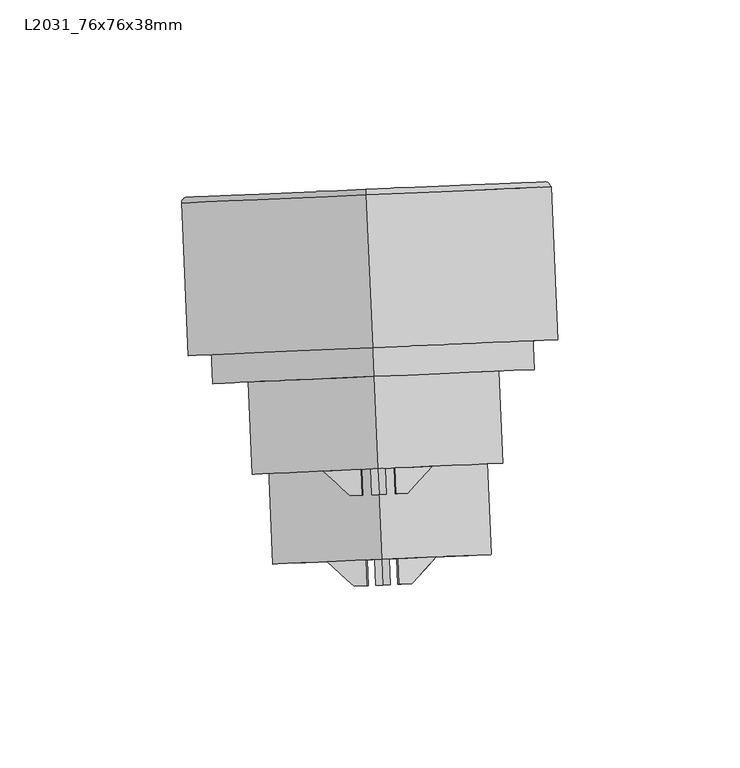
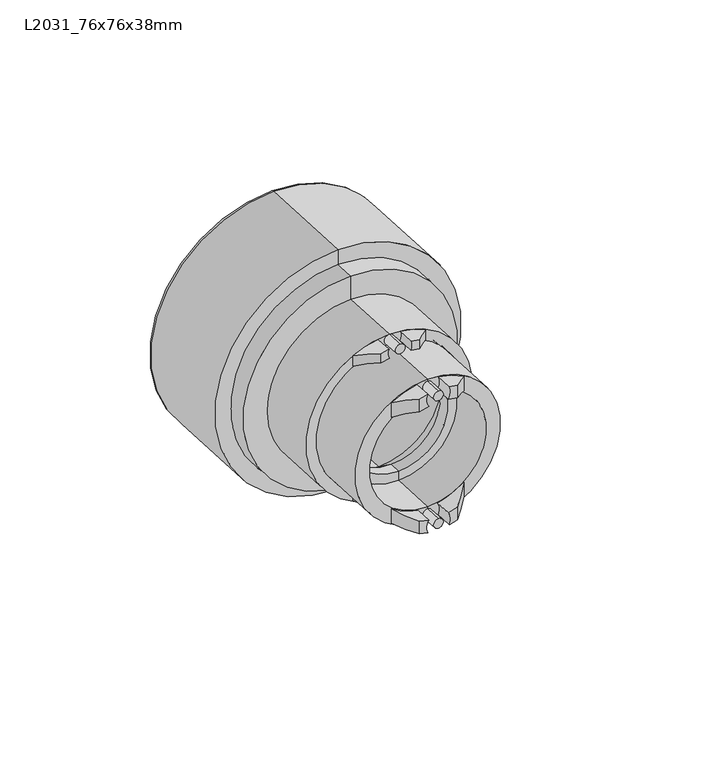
"""IFC4 building model written with IfcOpenShell, lengths in millimetres: pipe fitting geometry, Durapipe_PipeFitting_VulcatheneEnfusion_ReducingSweepTee_L20 : L2031_76x76x38mm."""

from ifc_helpers import new_model, si_unit, point, frame, frame_2d, origin, place, context, project, spatial, polyline, circle_curve, ellipse_curve, trimmed, segment, composite_curve, outline, extrude, source, transform, mapped, element, save
from ifc_brep_helpers import plane_surface, cylinder_surface, revolved_surface, advanced_brep


def l2031_76x76x38mm_6f6c5ed2(model_context):
    return source(origin(), model_context, "Body", "SolidModel", [
        advanced_brep(
        [(3.7135301, -177.8604329, 24.3153211), (3.3046977, -177.8782829, 29.5153211), (-0.1745983, -178.0301923, 28.7746225), (-0.1745983, -178.0301923, 23.3362143), (-7.5375764, -171.2449028, 25.8074117), (2.995, -170.7850406, 29.5153211), (3.4038325, -170.7671906, 24.3153211), (-7.5375764, -171.2449028, 19.5607387)],
        [
            (0, 1, circle_curve(frame((7.7578446, -177.6838544, 27.25), z_axis=(-0.043619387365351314, 0.9990482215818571, 0.0), x_axis=(0.0, 0.0, -1.0)), 5.0)),
            (1, 2, circle_curve(frame((7.7578446, -177.6838544, 0.0), z_axis=(0.043619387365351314, -0.9990482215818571, 0.0), x_axis=(0.0, 0.0, -1.0)), 29.85)),
            (2, 3),
            (3, 0, circle_curve(frame((7.7578446, -177.6838544, 0.0), z_axis=(-0.043619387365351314, 0.9990482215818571, 0.0), x_axis=(0.0, 0.0, -1.0)), 24.65)),
            (4, 5, circle_curve(frame((7.448147, -170.590612, 0.0), z_axis=(-0.043619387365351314, 0.9990482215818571, 0.0), x_axis=(0.0, 0.0, -1.0)), 29.85)),
            (5, 6, circle_curve(frame((7.448147, -170.590612, 27.25), z_axis=(0.043619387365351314, -0.9990482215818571, 0.0), x_axis=(0.0, 0.0, -1.0)), 5.0)),
            (6, 7, circle_curve(frame((7.448147, -170.590612, 0.0), z_axis=(0.043619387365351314, -0.9990482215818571, 0.0), x_axis=(0.0, 0.0, -1.0)), 24.65)),
            (7, 4),
            (6, 0),
            (3, 7, ellipse_curve(frame((8.1061448, -185.6612402, 0.0), z_axis=(-0.6776702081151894, -0.735365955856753, 0.0), x_axis=(-0.735365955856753, 0.6776702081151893, 0.0)), 34.9592584, 24.65)),
            (4, 2, ellipse_curve(frame((8.1061448, -185.6612402, 0.0), z_axis=(0.6776702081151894, 0.735365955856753, 0.0), x_axis=(0.735365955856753, -0.6776702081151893, 0.0)), 42.3340309, 29.85)),
            (1, 5),
        ],
        [
            plane_surface(frame((-7.2278787, -178.3381452, 25.8074117), z_axis=(0.043619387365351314, -0.9990482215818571, 0.0), x_axis=(0.0, 0.0, -1.0))),
            plane_surface(frame((-7.5375764, -171.2449028, 25.8074117), z_axis=(-0.043619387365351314, 0.9990482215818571, 0.0), x_axis=(0.0, 0.0, 1.0))),
            revolved_surface(polyline([(7.024835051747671, -160.89517438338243, -24.65), (9.187454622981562, -210.42730601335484, -24.65)]), (7.448147, -170.590612, 0.0), (-0.043619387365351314, 0.9990482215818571, 0.0)),
            cylinder_surface(frame((7.448147, -170.590612, 0.0), z_axis=(0.043619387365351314, -0.9990482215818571, 0.0), x_axis=(0.0, 0.0, -1.0)), 29.85),
            revolved_surface(polyline([(7.75784465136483, -177.68385439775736, 22.25), (7.448147, -170.590612, 22.25)]), (7.448147, -170.590612, 27.25), (0.043619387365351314, -0.9990482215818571, 0.0)),
            plane_surface(frame((-7.5375764, -171.2449028, -29.85), z_axis=(-0.6776702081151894, -0.735365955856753, 0.0), x_axis=(0.0, 0.0, 1.0))),
        ],
        [
            (0, [[1, 2, 3, 4]]),
            (1, [[5, 6, 7, 8]]),
            (2, [[-7, 9, -4, 10]]),
            (3, [[-5, 11, -2, 12]]),
            (4, [[-1, -9, -6, -12]]),
            (5, [[-3, -11, -8, -10]]),
        ],
    ),
        advanced_brep(
        [(12.2109916, -177.4894258, 29.5153211), (11.8021591, -177.5072758, 24.3153211), (15.6902875, -177.3375164, 23.3362143), (15.6902875, -177.3375164, 28.7746225), (11.9012939, -170.3961834, 29.5153211), (22.4338703, -169.9363212, 25.8074117), (22.4338703, -169.9363212, 19.5607387), (11.4924615, -170.4140334, 24.3153211)],
        [
            (0, 1, circle_curve(frame((7.7578446, -177.6838544, 27.25), z_axis=(-0.043619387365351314, 0.9990482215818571, 0.0), x_axis=(0.0, 0.0, -1.0)), 5.0)),
            (1, 2, circle_curve(frame((7.7578446, -177.6838544, 0.0), z_axis=(-0.043619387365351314, 0.9990482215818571, 0.0), x_axis=(0.0, 0.0, -1.0)), 24.65)),
            (2, 3),
            (3, 0, circle_curve(frame((7.7578446, -177.6838544, 0.0), z_axis=(0.043619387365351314, -0.9990482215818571, 0.0), x_axis=(0.0, 0.0, -1.0)), 29.85)),
            (4, 5, circle_curve(frame((7.448147, -170.590612, 0.0), z_axis=(-0.043619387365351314, 0.9990482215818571, 0.0), x_axis=(0.0, 0.0, -1.0)), 29.85)),
            (5, 6),
            (6, 7, circle_curve(frame((7.448147, -170.590612, 0.0), z_axis=(0.043619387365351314, -0.9990482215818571, 0.0), x_axis=(0.0, 0.0, -1.0)), 24.65)),
            (7, 4, circle_curve(frame((7.448147, -170.590612, 27.25), z_axis=(0.043619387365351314, -0.9990482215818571, 0.0), x_axis=(0.0, 0.0, -1.0)), 5.0)),
            (6, 2, ellipse_curve(frame((8.1061448, -185.6612402, 0.0), z_axis=(0.7391828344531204, -0.6735048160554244, 0.0), x_axis=(0.6735048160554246, 0.73918283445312, 0.0)), 34.9592584, 24.65)),
            (1, 7),
            (4, 0),
            (3, 5, ellipse_curve(frame((8.1061448, -185.6612402, 0.0), z_axis=(-0.7391828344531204, 0.6735048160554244, 0.0), x_axis=(-0.6735048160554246, -0.73918283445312, 0.0)), 42.3340309, 29.85)),
        ],
        [
            plane_surface(frame((-7.2278787, -178.3381452, 25.8074117), z_axis=(0.043619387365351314, -0.9990482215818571, 0.0), x_axis=(0.0, 0.0, -1.0))),
            plane_surface(frame((-7.5375764, -171.2449028, 25.8074117), z_axis=(-0.043619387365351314, 0.9990482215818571, 0.0), x_axis=(0.0, 0.0, 1.0))),
            revolved_surface(polyline([(7.024835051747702, -160.89517438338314, -24.65), (9.187454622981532, -210.42730601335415, -24.65)]), (7.448147, -170.590612, 0.0), (-0.043619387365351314, 0.9990482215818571, 0.0)),
            cylinder_surface(frame((7.448147, -170.590612, 0.0), z_axis=(0.043619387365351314, -0.9990482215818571, 0.0), x_axis=(0.0, 0.0, -1.0)), 29.85),
            revolved_surface(polyline([(7.75784465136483, -177.68385439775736, 22.25), (7.448146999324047, -170.59061198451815, 22.25)]), (7.448147, -170.590612, 27.25), (0.043619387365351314, -0.9990482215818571, 0.0)),
            plane_surface(frame((15.6902875, -177.3375164, -29.85), z_axis=(0.7391828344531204, -0.6735048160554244, 0.0), x_axis=(0.0, 0.0, 1.0))),
        ],
        [
            (0, [[1, 2, 3, 4]]),
            (1, [[5, 6, 7, 8]]),
            (2, [[-7, 9, -2, 10]]),
            (3, [[-5, 11, -4, 12]]),
            (4, [[-1, -11, -8, -10]]),
            (5, [[-3, -9, -6, -12]]),
        ],
    ),
        advanced_brep(
        [(3.3046977, -177.8782829, -29.5153211), (3.7135301, -177.8604329, -24.3153211), (-0.1745983, -178.0301923, -23.3362143), (-0.1745983, -178.0301923, -28.7746225), (2.995, -170.7850406, -29.5153211), (-7.5375764, -171.2449028, -25.8074117), (-7.5375764, -171.2449028, -19.5607387), (3.4038325, -170.7671906, -24.3153211)],
        [
            (0, 1, circle_curve(frame((7.7578446, -177.6838544, -27.25), z_axis=(-0.043619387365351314, 0.9990482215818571, 0.0), x_axis=(0.0, 0.0, -1.0)), 5.0)),
            (1, 2, circle_curve(frame((7.7578446, -177.6838544, 0.0), z_axis=(-0.043619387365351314, 0.9990482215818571, 0.0), x_axis=(0.0, 0.0, -1.0)), 24.65)),
            (2, 3),
            (3, 0, circle_curve(frame((7.7578446, -177.6838544, 0.0), z_axis=(0.043619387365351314, -0.9990482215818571, 0.0), x_axis=(0.0, 0.0, -1.0)), 29.85)),
            (4, 5, circle_curve(frame((7.448147, -170.590612, 0.0), z_axis=(-0.043619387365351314, 0.9990482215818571, 0.0), x_axis=(0.0, 0.0, -1.0)), 29.85)),
            (5, 6),
            (6, 7, circle_curve(frame((7.448147, -170.590612, 0.0), z_axis=(0.043619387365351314, -0.9990482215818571, 0.0), x_axis=(0.0, 0.0, -1.0)), 24.65)),
            (7, 4, circle_curve(frame((7.448147, -170.590612, -27.25), z_axis=(0.043619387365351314, -0.9990482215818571, 0.0), x_axis=(0.0, 0.0, -1.0)), 5.0)),
            (6, 2, ellipse_curve(frame((8.1061448, -185.6612402, 0.0), z_axis=(-0.6776702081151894, -0.735365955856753, 0.0), x_axis=(-0.735365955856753, 0.6776702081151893, 0.0)), 34.9592584, 24.65)),
            (1, 7),
            (4, 0),
            (3, 5, ellipse_curve(frame((8.1061448, -185.6612402, 0.0), z_axis=(0.6776702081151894, 0.735365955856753, 0.0), x_axis=(0.735365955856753, -0.6776702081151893, 0.0)), 42.3340309, 29.85)),
        ],
        [
            plane_surface(frame((-7.2278787, -178.3381452, 25.8074117), z_axis=(0.043619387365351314, -0.9990482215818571, 0.0), x_axis=(0.0, 0.0, -1.0))),
            plane_surface(frame((-7.5375764, -171.2449028, 25.8074117), z_axis=(-0.043619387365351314, 0.9990482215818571, 0.0), x_axis=(0.0, 0.0, 1.0))),
            revolved_surface(polyline([(7.024835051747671, -160.89517438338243, -24.65), (9.187454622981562, -210.42730601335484, -24.65)]), (7.448147, -170.590612, 0.0), (-0.043619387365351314, 0.9990482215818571, 0.0)),
            cylinder_surface(frame((7.448147, -170.590612, 0.0), z_axis=(0.043619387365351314, -0.9990482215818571, 0.0), x_axis=(0.0, 0.0, -1.0)), 29.85),
            revolved_surface(polyline([(7.75784465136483, -177.68385439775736, -32.25), (7.448147, -170.590612, -32.25)]), (7.448147, -170.590612, -27.25), (0.043619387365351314, -0.9990482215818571, 0.0)),
            plane_surface(frame((-7.5375764, -171.2449028, -29.85), z_axis=(-0.6776702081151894, -0.735365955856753, 0.0), x_axis=(0.0, 0.0, 1.0))),
        ],
        [
            (0, [[1, 2, 3, 4]]),
            (1, [[5, 6, 7, 8]]),
            (2, [[-7, 9, -2, 10]]),
            (3, [[-5, 11, -4, 12]]),
            (4, [[-1, -11, -8, -10]]),
            (5, [[-3, -9, -6, -12]]),
        ],
    ),
        advanced_brep(
        [(11.8021591, -177.5072758, -24.3153211), (12.2109916, -177.4894258, -29.5153211), (15.6902875, -177.3375164, -28.7746225), (15.6902875, -177.3375164, -23.3362143), (22.4338703, -169.9363212, -25.8074117), (11.9012939, -170.3961834, -29.5153211), (11.4924615, -170.4140334, -24.3153211), (22.4338703, -169.9363212, -19.5607387)],
        [
            (0, 1, circle_curve(frame((7.7578446, -177.6838544, -27.25), z_axis=(-0.043619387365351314, 0.9990482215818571, 0.0), x_axis=(0.0, 0.0, -1.0)), 5.0)),
            (1, 2, circle_curve(frame((7.7578446, -177.6838544, 0.0), z_axis=(0.043619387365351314, -0.9990482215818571, 0.0), x_axis=(0.0, 0.0, -1.0)), 29.85)),
            (2, 3),
            (3, 0, circle_curve(frame((7.7578446, -177.6838544, 0.0), z_axis=(-0.043619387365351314, 0.9990482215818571, 0.0), x_axis=(0.0, 0.0, -1.0)), 24.65)),
            (4, 5, circle_curve(frame((7.448147, -170.590612, 0.0), z_axis=(-0.043619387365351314, 0.9990482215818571, 0.0), x_axis=(0.0, 0.0, -1.0)), 29.85)),
            (5, 6, circle_curve(frame((7.448147, -170.590612, -27.25), z_axis=(0.043619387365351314, -0.9990482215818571, 0.0), x_axis=(0.0, 0.0, -1.0)), 5.0)),
            (6, 7, circle_curve(frame((7.448147, -170.590612, 0.0), z_axis=(0.043619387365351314, -0.9990482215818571, 0.0), x_axis=(0.0, 0.0, -1.0)), 24.65)),
            (7, 4),
            (6, 0),
            (3, 7, ellipse_curve(frame((8.1061448, -185.6612402, 0.0), z_axis=(0.7391828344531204, -0.6735048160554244, 0.0), x_axis=(0.6735048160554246, 0.73918283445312, 0.0)), 34.9592584, 24.65)),
            (4, 2, ellipse_curve(frame((8.1061448, -185.6612402, 0.0), z_axis=(-0.7391828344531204, 0.6735048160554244, 0.0), x_axis=(-0.6735048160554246, -0.73918283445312, 0.0)), 42.3340309, 29.85)),
            (1, 5),
        ],
        [
            plane_surface(frame((-7.2278787, -178.3381452, 25.8074117), z_axis=(0.043619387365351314, -0.9990482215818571, 0.0), x_axis=(0.0, 0.0, -1.0))),
            plane_surface(frame((-7.5375764, -171.2449028, 25.8074117), z_axis=(-0.043619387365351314, 0.9990482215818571, 0.0), x_axis=(0.0, 0.0, 1.0))),
            revolved_surface(polyline([(7.024835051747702, -160.89517438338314, -24.65), (9.187454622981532, -210.42730601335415, -24.65)]), (7.448147, -170.590612, 0.0), (-0.043619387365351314, 0.9990482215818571, 0.0)),
            cylinder_surface(frame((7.448147, -170.590612, 0.0), z_axis=(0.043619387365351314, -0.9990482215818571, 0.0), x_axis=(0.0, 0.0, -1.0)), 29.85),
            revolved_surface(polyline([(7.75784465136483, -177.68385439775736, -32.25), (7.448146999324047, -170.59061198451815, -32.25)]), (7.448147, -170.590612, -27.25), (0.043619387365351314, -0.9990482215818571, 0.0)),
            plane_surface(frame((15.6902875, -177.3375164, -29.85), z_axis=(0.7391828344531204, -0.6735048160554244, 0.0), x_axis=(0.0, 0.0, 1.0))),
        ],
        [
            (0, [[1, 2, 3, 4]]),
            (1, [[5, 6, 7, 8]]),
            (2, [[-7, 9, -4, 10]]),
            (3, [[-5, 11, -2, 12]]),
            (4, [[-1, -9, -6, -12]]),
            (5, [[-3, -11, -8, -10]]),
        ],
    ),
        extrude(outline(composite_curve([segment(trimmed(circle_curve(frame_2d((0.0, -2.0)), 2.0), [point((0.0, -4.0))], [point((0.0, 0.0))], False, "CARTESIAN"), True, "CONTINUOUS"), segment(trimmed(circle_curve(frame_2d((0.0, -2.0)), 2.0), [point((0.0, 0.0))], [point((0.0, -4.0))], False, "CARTESIAN"), True, "CONTINUOUS")], self_intersect=False)), frame((7.7578446, -177.6838544, 25.25), z_axis=(-0.043619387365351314, 0.9990482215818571, 0.0), x_axis=(0.9990482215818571, 0.043619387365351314, 0.0)), (0.0, 0.0, 1.0), 7.1),
        extrude(outline(composite_curve([segment(trimmed(circle_curve(frame_2d((0.0, 52.5)), 2.0), [point((0.0, 50.5))], [point((0.0, 54.5))], False, "CARTESIAN"), True, "CONTINUOUS"), segment(trimmed(circle_curve(frame_2d((0.0, 52.5)), 2.0), [point((0.0, 54.5))], [point((0.0, 50.5))], False, "CARTESIAN"), True, "CONTINUOUS")], self_intersect=False)), frame((7.7578446, -177.6838544, 25.25), z_axis=(-0.043619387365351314, 0.9990482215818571, 0.0), x_axis=(0.9990482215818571, 0.043619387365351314, 0.0)), (0.0, 0.0, 1.0), 7.1),
        advanced_brep(
        [(2.1979179, -152.9469122, 30.2709231), (1.9269911, -152.9587411, 34.0709231), (-1.2631601, -153.0980261, 33.4711279), (-1.2631601, -153.0980261, 29.5519272), (-8.6261382, -146.3127366, 30.9573901), (1.6172935, -145.8654987, 34.0709231), (1.8882202, -145.8536698, 30.2709231), (-8.6261382, -146.3127366, 26.6713329)],
        [
            (0, 1, circle_curve(frame((6.6692827, -152.7516881, 32.5), z_axis=(-0.043619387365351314, 0.9990482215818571, 0.0), x_axis=(0.0, 0.0, -1.0)), 5.0)),
            (1, 2, circle_curve(frame((6.6692827, -152.7516881, 0.0), z_axis=(0.043619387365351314, -0.9990482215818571, 0.0), x_axis=(0.0, 0.0, -1.0)), 34.4)),
            (2, 3),
            (3, 0, circle_curve(frame((6.6692827, -152.7516881, 0.0), z_axis=(-0.043619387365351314, 0.9990482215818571, 0.0), x_axis=(0.0, 0.0, -1.0)), 30.6)),
            (4, 5, circle_curve(frame((6.3595851, -145.6584458, 0.0), z_axis=(-0.043619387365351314, 0.9990482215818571, 0.0), x_axis=(0.0, 0.0, -1.0)), 34.4)),
            (5, 6, circle_curve(frame((6.3595851, -145.6584458, 32.5), z_axis=(0.043619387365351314, -0.9990482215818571, 0.0), x_axis=(0.0, 0.0, -1.0)), 5.0)),
            (6, 7, circle_curve(frame((6.3595851, -145.6584458, 0.0), z_axis=(0.043619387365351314, -0.9990482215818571, 0.0), x_axis=(0.0, 0.0, -1.0)), 30.6)),
            (7, 4),
            (6, 0),
            (3, 7, ellipse_curve(frame((7.0175829, -160.729074, 0.0), z_axis=(-0.6776702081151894, -0.735365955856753, 0.0), x_axis=(-0.735365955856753, 0.6776702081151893, 0.0)), 43.3977, 30.6)),
            (4, 2, ellipse_curve(frame((7.0175829, -160.729074, 0.0), z_axis=(0.6776702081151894, 0.735365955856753, 0.0), x_axis=(0.735365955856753, -0.6776702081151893, 0.0)), 48.7869569, 34.4)),
            (1, 5),
        ],
        [
            plane_surface(frame((-8.3164406, -153.405979, 30.9573901), z_axis=(0.043619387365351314, -0.9990482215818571, 0.0), x_axis=(0.0, 0.0, -1.0))),
            plane_surface(frame((-8.6261382, -146.3127366, 30.9573901), z_axis=(-0.043619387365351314, 0.9990482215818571, 0.0), x_axis=(0.0, 0.0, 1.0))),
            revolved_surface(polyline([(5.6752673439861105, -129.98499235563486, -30.6), (8.35989853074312, -191.4731556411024, -30.6)]), (6.3595851, -145.6584458, 0.0), (-0.043619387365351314, 0.9990482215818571, 0.0)),
            cylinder_surface(frame((6.3595851, -145.6584458, 0.0), z_axis=(0.043619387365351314, -0.9990482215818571, 0.0), x_axis=(0.0, 0.0, -1.0)), 34.4),
            revolved_surface(polyline([(6.669282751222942, -152.75168819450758, 27.5), (6.359585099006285, -145.6584457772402, 27.5)]), (6.3595851, -145.6584458, 32.5), (0.043619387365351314, -0.9990482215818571, 0.0)),
            plane_surface(frame((-8.6261382, -146.3127366, -34.4), z_axis=(-0.6776702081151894, -0.735365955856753, 0.0), x_axis=(0.0, 0.0, 1.0))),
        ],
        [
            (0, [[1, 2, 3, 4]]),
            (1, [[5, 6, 7, 8]]),
            (2, [[-7, 9, -4, 10]]),
            (3, [[-5, 11, -2, 12]]),
            (4, [[-1, -9, -6, -12]]),
            (5, [[-3, -11, -8, -10]]),
        ],
    ),
        advanced_brep(
        [(11.4115744, -152.5446352, 34.0709231), (11.1406476, -152.5564641, 30.2709231), (14.6017256, -152.4053502, 29.5519272), (14.6017256, -152.4053502, 33.4711279), (11.1018767, -145.4513929, 34.0709231), (21.3453084, -145.004155, 30.9573901), (21.3453084, -145.004155, 26.6713329), (10.8309499, -145.4632218, 30.2709231)],
        [
            (0, 1, circle_curve(frame((6.6692827, -152.7516881, 32.5), z_axis=(-0.043619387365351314, 0.9990482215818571, 0.0), x_axis=(0.0, 0.0, -1.0)), 5.0)),
            (1, 2, circle_curve(frame((6.6692827, -152.7516881, 0.0), z_axis=(-0.043619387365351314, 0.9990482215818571, 0.0), x_axis=(0.0, 0.0, -1.0)), 30.6)),
            (2, 3),
            (3, 0, circle_curve(frame((6.6692827, -152.7516881, 0.0), z_axis=(0.043619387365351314, -0.9990482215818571, 0.0), x_axis=(0.0, 0.0, -1.0)), 34.4)),
            (4, 5, circle_curve(frame((6.3595851, -145.6584458, 0.0), z_axis=(-0.043619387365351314, 0.9990482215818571, 0.0), x_axis=(0.0, 0.0, -1.0)), 34.4)),
            (5, 6),
            (6, 7, circle_curve(frame((6.3595851, -145.6584458, 0.0), z_axis=(0.043619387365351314, -0.9990482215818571, 0.0), x_axis=(0.0, 0.0, -1.0)), 30.6)),
            (7, 4, circle_curve(frame((6.3595851, -145.6584458, 32.5), z_axis=(0.043619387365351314, -0.9990482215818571, 0.0), x_axis=(0.0, 0.0, -1.0)), 5.0)),
            (6, 2, ellipse_curve(frame((7.0175829, -160.729074, 0.0), z_axis=(0.7391828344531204, -0.6735048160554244, 0.0), x_axis=(0.6735048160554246, 0.73918283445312, 0.0)), 43.3977, 30.6)),
            (1, 7),
            (4, 0),
            (3, 5, ellipse_curve(frame((7.0175829, -160.729074, 0.0), z_axis=(-0.7391828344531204, 0.6735048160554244, 0.0), x_axis=(-0.6735048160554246, -0.73918283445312, 0.0)), 48.7869569, 34.4)),
        ],
        [
            plane_surface(frame((-8.3164406, -153.405979, 30.9573901), z_axis=(0.043619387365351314, -0.9990482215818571, 0.0), x_axis=(0.0, 0.0, -1.0))),
            plane_surface(frame((-8.6261382, -146.3127366, 30.9573901), z_axis=(-0.043619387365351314, 0.9990482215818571, 0.0), x_axis=(0.0, 0.0, 1.0))),
            revolved_surface(polyline([(5.675267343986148, -129.9849923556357, -30.6), (8.359898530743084, -191.47315564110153, -30.6)]), (6.3595851, -145.6584458, 0.0), (-0.043619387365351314, 0.9990482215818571, 0.0)),
            cylinder_surface(frame((6.3595851, -145.6584458, 0.0), z_axis=(0.043619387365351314, -0.9990482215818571, 0.0), x_axis=(0.0, 0.0, -1.0)), 34.4),
            revolved_surface(polyline([(6.669282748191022, -152.75168812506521, 27.5), (6.3595851, -145.6584458, 27.5)]), (6.3595851, -145.6584458, 32.5), (0.043619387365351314, -0.9990482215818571, 0.0)),
            plane_surface(frame((14.6017256, -152.4053502, -34.4), z_axis=(0.7391828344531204, -0.6735048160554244, 0.0), x_axis=(0.0, 0.0, 1.0))),
        ],
        [
            (0, [[1, 2, 3, 4]]),
            (1, [[5, 6, 7, 8]]),
            (2, [[-7, 9, -2, 10]]),
            (3, [[-5, 11, -4, 12]]),
            (4, [[-1, -11, -8, -10]]),
            (5, [[-3, -9, -6, -12]]),
        ],
    ),
        advanced_brep(
        [(1.9269911, -152.9587411, -34.0709231), (2.1979179, -152.9469122, -30.2709231), (-1.2631601, -153.0980261, -29.5519272), (-1.2631601, -153.0980261, -33.4711279), (1.6172935, -145.8654987, -34.0709231), (-8.6261382, -146.3127366, -30.9573901), (-8.6261382, -146.3127366, -26.6713329), (1.8882202, -145.8536698, -30.2709231)],
        [
            (0, 1, circle_curve(frame((6.6692827, -152.7516881, -32.5), z_axis=(-0.043619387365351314, 0.9990482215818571, 0.0), x_axis=(0.0, 0.0, -1.0)), 5.0)),
            (1, 2, circle_curve(frame((6.6692827, -152.7516881, 0.0), z_axis=(-0.043619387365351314, 0.9990482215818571, 0.0), x_axis=(0.0, 0.0, -1.0)), 30.6)),
            (2, 3),
            (3, 0, circle_curve(frame((6.6692827, -152.7516881, 0.0), z_axis=(0.043619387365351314, -0.9990482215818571, 0.0), x_axis=(0.0, 0.0, -1.0)), 34.4)),
            (4, 5, circle_curve(frame((6.3595851, -145.6584458, 0.0), z_axis=(-0.043619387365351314, 0.9990482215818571, 0.0), x_axis=(0.0, 0.0, -1.0)), 34.4)),
            (5, 6),
            (6, 7, circle_curve(frame((6.3595851, -145.6584458, 0.0), z_axis=(0.043619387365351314, -0.9990482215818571, 0.0), x_axis=(0.0, 0.0, -1.0)), 30.6)),
            (7, 4, circle_curve(frame((6.3595851, -145.6584458, -32.5), z_axis=(0.043619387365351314, -0.9990482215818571, 0.0), x_axis=(0.0, 0.0, -1.0)), 5.0)),
            (6, 2, ellipse_curve(frame((7.0175829, -160.729074, 0.0), z_axis=(-0.6776702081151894, -0.735365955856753, 0.0), x_axis=(-0.735365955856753, 0.6776702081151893, 0.0)), 43.3977, 30.6)),
            (1, 7),
            (4, 0),
            (3, 5, ellipse_curve(frame((7.0175829, -160.729074, 0.0), z_axis=(0.6776702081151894, 0.735365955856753, 0.0), x_axis=(0.735365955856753, -0.6776702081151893, 0.0)), 48.7869569, 34.4)),
        ],
        [
            plane_surface(frame((-8.3164406, -153.405979, 30.9573901), z_axis=(0.043619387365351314, -0.9990482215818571, 0.0), x_axis=(0.0, 0.0, -1.0))),
            plane_surface(frame((-8.6261382, -146.3127366, 30.9573901), z_axis=(-0.043619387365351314, 0.9990482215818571, 0.0), x_axis=(0.0, 0.0, 1.0))),
            revolved_surface(polyline([(5.6752673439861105, -129.98499235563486, -30.6), (8.35989853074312, -191.4731556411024, -30.6)]), (6.3595851, -145.6584458, 0.0), (-0.043619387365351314, 0.9990482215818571, 0.0)),
            cylinder_surface(frame((6.3595851, -145.6584458, 0.0), z_axis=(0.043619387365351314, -0.9990482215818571, 0.0), x_axis=(0.0, 0.0, -1.0)), 34.4),
            revolved_surface(polyline([(6.669282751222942, -152.75168819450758, -37.5), (6.359585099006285, -145.6584457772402, -37.5)]), (6.3595851, -145.6584458, -32.5), (0.043619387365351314, -0.9990482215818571, 0.0)),
            plane_surface(frame((-8.6261382, -146.3127366, -34.4), z_axis=(-0.6776702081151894, -0.735365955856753, 0.0), x_axis=(0.0, 0.0, 1.0))),
        ],
        [
            (0, [[1, 2, 3, 4]]),
            (1, [[5, 6, 7, 8]]),
            (2, [[-7, 9, -2, 10]]),
            (3, [[-5, 11, -4, 12]]),
            (4, [[-1, -11, -8, -10]]),
            (5, [[-3, -9, -6, -12]]),
        ],
    ),
        advanced_brep(
        [(11.1406476, -152.5564641, -30.2709231), (11.4115744, -152.5446352, -34.0709231), (14.6017256, -152.4053502, -33.4711279), (14.6017256, -152.4053502, -29.5519272), (21.3453084, -145.004155, -30.9573901), (11.1018767, -145.4513929, -34.0709231), (10.8309499, -145.4632218, -30.2709231), (21.3453084, -145.004155, -26.6713329)],
        [
            (0, 1, circle_curve(frame((6.6692827, -152.7516881, -32.5), z_axis=(-0.043619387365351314, 0.9990482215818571, 0.0), x_axis=(0.0, 0.0, -1.0)), 5.0)),
            (1, 2, circle_curve(frame((6.6692827, -152.7516881, 0.0), z_axis=(0.043619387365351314, -0.9990482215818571, 0.0), x_axis=(0.0, 0.0, -1.0)), 34.4)),
            (2, 3),
            (3, 0, circle_curve(frame((6.6692827, -152.7516881, 0.0), z_axis=(-0.043619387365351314, 0.9990482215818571, 0.0), x_axis=(0.0, 0.0, -1.0)), 30.6)),
            (4, 5, circle_curve(frame((6.3595851, -145.6584458, 0.0), z_axis=(-0.043619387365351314, 0.9990482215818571, 0.0), x_axis=(0.0, 0.0, -1.0)), 34.4)),
            (5, 6, circle_curve(frame((6.3595851, -145.6584458, -32.5), z_axis=(0.043619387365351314, -0.9990482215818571, 0.0), x_axis=(0.0, 0.0, -1.0)), 5.0)),
            (6, 7, circle_curve(frame((6.3595851, -145.6584458, 0.0), z_axis=(0.043619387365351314, -0.9990482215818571, 0.0), x_axis=(0.0, 0.0, -1.0)), 30.6)),
            (7, 4),
            (6, 0),
            (3, 7, ellipse_curve(frame((7.0175829, -160.729074, 0.0), z_axis=(0.7391828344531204, -0.6735048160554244, 0.0), x_axis=(0.6735048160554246, 0.73918283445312, 0.0)), 43.3977, 30.6)),
            (4, 2, ellipse_curve(frame((7.0175829, -160.729074, 0.0), z_axis=(-0.7391828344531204, 0.6735048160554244, 0.0), x_axis=(-0.6735048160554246, -0.73918283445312, 0.0)), 48.7869569, 34.4)),
            (1, 5),
        ],
        [
            plane_surface(frame((-8.3164406, -153.405979, 30.9573901), z_axis=(0.043619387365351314, -0.9990482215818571, 0.0), x_axis=(0.0, 0.0, -1.0))),
            plane_surface(frame((-8.6261382, -146.3127366, 30.9573901), z_axis=(-0.043619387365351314, 0.9990482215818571, 0.0), x_axis=(0.0, 0.0, 1.0))),
            revolved_surface(polyline([(5.675267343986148, -129.9849923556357, -30.6), (8.359898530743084, -191.47315564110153, -30.6)]), (6.3595851, -145.6584458, 0.0), (-0.043619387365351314, 0.9990482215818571, 0.0)),
            cylinder_surface(frame((6.3595851, -145.6584458, 0.0), z_axis=(0.043619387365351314, -0.9990482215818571, 0.0), x_axis=(0.0, 0.0, -1.0)), 34.4),
            revolved_surface(polyline([(6.669282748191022, -152.75168812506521, -37.5), (6.3595851, -145.6584458, -37.5)]), (6.3595851, -145.6584458, -32.5), (0.043619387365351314, -0.9990482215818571, 0.0)),
            plane_surface(frame((14.6017256, -152.4053502, -34.4), z_axis=(0.7391828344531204, -0.6735048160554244, 0.0), x_axis=(0.0, 0.0, 1.0))),
        ],
        [
            (0, [[1, 2, 3, 4]]),
            (1, [[5, 6, 7, 8]]),
            (2, [[-7, 9, -4, 10]]),
            (3, [[-5, 11, -2, 12]]),
            (4, [[-1, -9, -6, -12]]),
            (5, [[-3, -11, -8, -10]]),
        ],
    ),
        extrude(outline(composite_curve([segment(trimmed(circle_curve(frame_2d((0.0, -2.0)), 2.0), [point((0.0, -4.0))], [point((0.0, 0.0))], False, "CARTESIAN"), True, "CONTINUOUS"), segment(trimmed(circle_curve(frame_2d((0.0, -2.0)), 2.0), [point((0.0, 0.0))], [point((0.0, -4.0))], False, "CARTESIAN"), True, "CONTINUOUS")], self_intersect=False)), frame((6.6692827, -152.7516881, 30.5), z_axis=(-0.043619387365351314, 0.9990482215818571, 0.0), x_axis=(0.9990482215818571, 0.043619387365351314, 0.0)), (0.0, 0.0, 1.0), 7.1),
        extrude(outline(composite_curve([segment(trimmed(circle_curve(frame_2d((0.0, 63.0)), 2.0), [point((0.0, 61.0))], [point((0.0, 65.0))], False, "CARTESIAN"), True, "CONTINUOUS"), segment(trimmed(circle_curve(frame_2d((0.0, 63.0)), 2.0), [point((0.0, 65.0))], [point((0.0, 61.0))], False, "CARTESIAN"), True, "CONTINUOUS")], self_intersect=False)), frame((6.6692827, -152.7516881, 30.5), z_axis=(-0.043619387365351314, 0.9990482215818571, 0.0), x_axis=(0.9990482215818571, 0.043619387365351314, 0.0)), (0.0, 0.0, 1.0), 7.1),
        advanced_brep(
        [(5.2519108, -120.288534, 25.9955588), (5.2519108, -120.288534, -25.9955588), (5.2519108, -120.288534, -30.1625), (5.2519108, -120.288534, 30.1625), (6.056568, -138.7182129, 25.9955588), (6.056568, -138.7182129, -25.9955588), (6.4041435, -146.6790011, 20.4160445), (6.4041435, -146.6790011, -20.4160445), (6.6171976, -151.5587434, 20.4160445), (6.6171976, -151.5587434, -20.4160445), (6.6171976, -151.5587434, 24.2869629), (6.6171976, -151.5587434, -24.2869629), (7.448147, -170.590612, 24.2869629), (7.448147, -170.590612, -24.2869629), (7.448147, -170.590612, 30.1625), (7.448147, -170.590612, -30.1625)],
        [
            (0, 1, circle_curve(frame((5.2519108, -120.288534, 0.0), z_axis=(0.043619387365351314, -0.9990482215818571, 0.0), x_axis=(0.0, 0.0, -1.0)), 25.9955588)),
            (1, 2),
            (2, 3, circle_curve(frame((5.2519108, -120.288534, 0.0), z_axis=(-0.043619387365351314, 0.9990482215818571, 0.0), x_axis=(0.0, 0.0, -1.0)), 30.1625)),
            (3, 0),
            (1, 0, circle_curve(frame((5.2519108, -120.288534, 0.0), z_axis=(0.043619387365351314, -0.9990482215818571, 0.0), x_axis=(0.0, 0.0, -1.0)), 25.9955588)),
            (3, 2, circle_curve(frame((5.2519108, -120.288534, 0.0), z_axis=(-0.043619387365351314, 0.9990482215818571, 0.0), x_axis=(0.0, 0.0, -1.0)), 30.1625)),
            (4, 5, circle_curve(frame((6.056568, -138.7182129, 0.0), z_axis=(0.043619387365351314, -0.9990482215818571, 0.0), x_axis=(0.0, 0.0, -1.0)), 25.9955588)),
            (5, 1),
            (0, 4),
            (5, 4, circle_curve(frame((6.056568, -138.7182129, 0.0), z_axis=(0.043619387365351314, -0.9990482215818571, 0.0), x_axis=(0.0, 0.0, -1.0)), 25.9955588)),
            (6, 7, circle_curve(frame((6.4041435, -146.6790011, 0.0), z_axis=(0.043619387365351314, -0.9990482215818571, 0.0), x_axis=(0.0, 0.0, -1.0)), 20.4160445)),
            (7, 5),
            (4, 6),
            (7, 6, circle_curve(frame((6.4041435, -146.6790011, 0.0), z_axis=(0.043619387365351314, -0.9990482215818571, 0.0), x_axis=(0.0, 0.0, -1.0)), 20.4160445)),
            (8, 9, circle_curve(frame((6.6171976, -151.5587434, 0.0), z_axis=(0.043619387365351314, -0.9990482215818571, 0.0), x_axis=(0.0, 0.0, -1.0)), 20.4160445)),
            (9, 7),
            (6, 8),
            (9, 8, circle_curve(frame((6.6171976, -151.5587434, 0.0), z_axis=(0.043619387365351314, -0.9990482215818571, 0.0), x_axis=(0.0, 0.0, -1.0)), 20.4160445)),
            (10, 11, circle_curve(frame((6.6171976, -151.5587434, 0.0), z_axis=(0.043619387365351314, -0.9990482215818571, 0.0), x_axis=(0.0, 0.0, -1.0)), 24.2869629)),
            (11, 9),
            (8, 10),
            (11, 10, circle_curve(frame((6.6171976, -151.5587434, 0.0), z_axis=(0.043619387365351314, -0.9990482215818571, 0.0), x_axis=(0.0, 0.0, -1.0)), 24.2869629)),
            (12, 13, circle_curve(frame((7.448147, -170.590612, 0.0), z_axis=(0.043619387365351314, -0.9990482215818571, 0.0), x_axis=(0.0, 0.0, -1.0)), 24.2869629)),
            (13, 11),
            (10, 12),
            (13, 12, circle_curve(frame((7.448147, -170.590612, 0.0), z_axis=(0.043619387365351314, -0.9990482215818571, 0.0), x_axis=(0.0, 0.0, -1.0)), 24.2869629)),
            (14, 15, circle_curve(frame((7.448147, -170.590612, 0.0), z_axis=(0.043619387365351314, -0.9990482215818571, 0.0), x_axis=(0.0, 0.0, -1.0)), 30.1625)),
            (15, 13),
            (12, 14),
            (15, 14, circle_curve(frame((7.448147, -170.590612, 0.0), z_axis=(0.043619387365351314, -0.9990482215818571, 0.0), x_axis=(0.0, 0.0, -1.0)), 30.1625)),
            (2, 15),
            (14, 3),
        ],
        [
            plane_surface(frame((5.2519108, -120.288534, 0.0), z_axis=(-0.043619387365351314, 0.9990482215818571, 0.0), x_axis=(0.0, 0.0, -1.0))),
            revolved_surface(polyline([(5.251910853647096, -120.28853399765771, -25.9955588), (6.0565680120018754, -138.718212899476, -25.9955588)]), (6.9696051, -159.6302003, 0.0), (-0.043619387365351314, 0.9990482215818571, 0.0)),
            revolved_surface(polyline([(6.056568, -138.7182129, -25.9955588), (6.4041435, -146.6790011, -20.4160445)]), (6.9696051, -159.6302003, 0.0), (-0.043619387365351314, 0.9990482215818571, 0.0)),
            revolved_surface(polyline([(6.4041435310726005, -146.67900109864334, -20.4160445), (6.617197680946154, -151.55874339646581, -20.4160445)]), (6.9696051, -159.6302003, 0.0), (-0.043619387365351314, 0.9990482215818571, 0.0)),
            plane_surface(frame((6.6171976, -151.5587434, 0.0), z_axis=(0.043619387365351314, -0.9990482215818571, 0.0), x_axis=(0.0, 0.0, -1.0))),
            revolved_surface(polyline([(6.617197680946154, -151.55874339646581, -24.2869629), (7.448147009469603, -170.59061199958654, -24.2869629)]), (6.9696051, -159.6302003, 0.0), (-0.043619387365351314, 0.9990482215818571, 0.0)),
            plane_surface(frame((7.448147, -170.590612, 0.0), z_axis=(0.043619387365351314, -0.9990482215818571, 0.0), x_axis=(0.0, 0.0, -1.0))),
            cylinder_surface(frame((6.9696051, -159.6302003, 0.0), z_axis=(-0.043619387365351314, 0.9990482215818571, 0.0), x_axis=(0.0, 0.0, -1.0)), 30.1625),
        ],
        [
            (0, [[1, 2, 3, 4]]),
            (0, [[5, -4, 6, -2]]),
            (1, [[7, 8, -1, 9]]),
            (1, [[10, -9, -5, -8]]),
            (2, [[11, 12, -7, 13]]),
            (2, [[14, -13, -10, -12]]),
            (3, [[15, 16, -11, 17]]),
            (3, [[18, -17, -14, -16]]),
            (4, [[19, 20, -15, 21]]),
            (4, [[22, -21, -18, -20]]),
            (5, [[23, 24, -19, 25]]),
            (5, [[26, -25, -22, -24]]),
            (6, [[27, 28, -23, 29]]),
            (6, [[30, -29, -26, -28]]),
            (7, [[-3, 31, -27, 32]]),
            (7, [[-6, -32, -30, -31]]),
        ],
    ),
        advanced_brep(
        [(3.0046981, -68.8189003, 49.554), (3.0046981, -68.8189003, -49.554), (3.0701272, -70.3174726, -51.054), (3.0701272, -70.3174726, 51.054), (3.0046981, -68.8189003, 0.0), (3.3822748, -77.4668296, 44.7251256), (3.3822748, -77.4668296, -44.7251256), (3.3822748, -77.4668296, 0.0), (4.9056819, -112.3585888, 44.7251256), (4.9056819, -112.3585888, -44.7251256), (4.9056819, -112.3585888, 51.054), (4.9056819, -112.3585888, -51.054)],
        [
            (0, 1, circle_curve(frame((3.0046981, -68.8189003, 0.0), z_axis=(0.043619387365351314, -0.9990482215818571, 0.0), x_axis=(0.0, 0.0, -1.0)), 49.554)),
            (1, 2, circle_curve(frame((3.0701272, -70.3174726, -49.554), z_axis=(-0.9990482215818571, -0.043619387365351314, 0.0), x_axis=(0.0, 0.0, 1.0)), 1.5)),
            (2, 3, circle_curve(frame((3.0701272, -70.3174726, 0.0), z_axis=(-0.043619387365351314, 0.9990482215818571, 0.0), x_axis=(0.0, 0.0, -1.0)), 51.054)),
            (3, 0, circle_curve(frame((3.0701272, -70.3174726, 49.554), z_axis=(-0.9990482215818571, -0.043619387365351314, 0.0), x_axis=(0.0, 0.0, -1.0)), 1.5)),
            (1, 0, circle_curve(frame((3.0046981, -68.8189003, 0.0), z_axis=(0.043619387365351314, -0.9990482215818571, 0.0), x_axis=(0.0, 0.0, -1.0)), 49.554)),
            (3, 2, circle_curve(frame((3.0701272, -70.3174726, 0.0), z_axis=(-0.043619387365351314, 0.9990482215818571, 0.0), x_axis=(0.0, 0.0, -1.0)), 51.054)),
            (4, 1),
            (0, 4),
            (5, 6, circle_curve(frame((3.3822748, -77.4668296, 0.0), z_axis=(0.043619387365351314, -0.9990482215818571, 0.0), x_axis=(0.0, 0.0, -1.0)), 44.7251256)),
            (6, 7),
            (7, 5),
            (6, 5, circle_curve(frame((3.3822748, -77.4668296, 0.0), z_axis=(0.043619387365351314, -0.9990482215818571, 0.0), x_axis=(0.0, 0.0, -1.0)), 44.7251256)),
            (8, 9, circle_curve(frame((4.9056819, -112.3585888, 0.0), z_axis=(0.043619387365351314, -0.9990482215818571, 0.0), x_axis=(0.0, 0.0, -1.0)), 44.7251256)),
            (9, 6),
            (5, 8),
            (9, 8, circle_curve(frame((4.9056819, -112.3585888, 0.0), z_axis=(0.043619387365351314, -0.9990482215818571, 0.0), x_axis=(0.0, 0.0, -1.0)), 44.7251256)),
            (10, 11, circle_curve(frame((4.9056819, -112.3585888, 0.0), z_axis=(0.043619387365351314, -0.9990482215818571, 0.0), x_axis=(0.0, 0.0, -1.0)), 51.054)),
            (11, 9),
            (8, 10),
            (11, 10, circle_curve(frame((4.9056819, -112.3585888, 0.0), z_axis=(0.043619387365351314, -0.9990482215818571, 0.0), x_axis=(0.0, 0.0, -1.0)), 51.054)),
            (2, 11),
            (10, 3),
        ],
        [
            revolved_surface(trimmed(ellipse_curve(frame((3.0701272, -70.3174726, -49.554), z_axis=(0.9990482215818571, 0.043619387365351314, 0.0), x_axis=(0.0, 0.0, 1.0)), 1.5, 1.5), [point((3.0701272, -70.3174726, -51.054))], [point((3.0046981, -68.8189003, -49.554))], True, "CARTESIAN"), (4.4694881, -102.3681065, 0.0), (-0.043619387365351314, 0.9990482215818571, 0.0)),
            plane_surface(frame((3.0046981, -68.8189003, 0.0), z_axis=(-0.043619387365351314, 0.9990482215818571, 0.0), x_axis=(0.0, 0.0, -1.0))),
            plane_surface(frame((3.3822748, -77.4668296, 0.0), z_axis=(0.043619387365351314, -0.9990482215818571, 0.0), x_axis=(0.0, 0.0, -1.0))),
            revolved_surface(polyline([(3.382274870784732, -77.46682959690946, -44.7251256), (4.905681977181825, -112.35858879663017, -44.7251256)]), (4.4694881, -102.3681065, 0.0), (-0.043619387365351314, 0.9990482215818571, 0.0)),
            plane_surface(frame((4.9056819, -112.3585888, 0.0), z_axis=(0.043619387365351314, -0.9990482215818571, 0.0), x_axis=(0.0, 0.0, -1.0))),
            cylinder_surface(frame((4.4694881, -102.3681065, 0.0), z_axis=(-0.043619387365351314, 0.9990482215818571, 0.0), x_axis=(0.0, 0.0, -1.0)), 51.054),
        ],
        [
            (0, [[1, 2, 3, 4]]),
            (0, [[5, -4, 6, -2]]),
            (1, [[7, -1, 8]]),
            (1, [[-8, -5, -7]]),
            (2, [[9, 10, 11]]),
            (2, [[12, -11, -10]]),
            (3, [[13, 14, -9, 15]]),
            (3, [[16, -15, -12, -14]]),
            (4, [[17, 18, -13, 19]]),
            (4, [[20, -19, -16, -18]]),
            (5, [[-3, 21, -17, 22]]),
            (5, [[-6, -22, -20, -21]]),
        ],
    ),
        advanced_brep(
        [(5.2519108, -120.288534, 44.45), (5.2519108, -120.288534, -44.45), (5.2519108, -120.288534, -34.5600076), (5.2519108, -120.288534, 34.5600076), (3.3822748, -77.4668296, 44.45), (3.3822748, -77.4668296, -44.45), (3.3822748, -77.4668296, 38.13357), (3.3822748, -77.4668296, -38.13357), (4.9056819, -112.3585888, 38.13357), (4.9056819, -112.3585888, -38.13357), (4.9056819, -112.3585888, 25.5553266), (4.9056819, -112.3585888, -25.5553266), (5.2519108, -120.288534, 25.5553266), (5.2519108, -120.288534, -25.5553266), (5.2519108, -120.288534, 30.4314669), (5.2519108, -120.288534, -30.4314669), (6.3595851, -145.6584458, 30.4314669), (6.3595851, -145.6584458, -30.4314669), (6.3595851, -145.6584458, 34.5600076), (6.3595851, -145.6584458, -34.5600076)],
        [
            (0, 1, circle_curve(frame((5.2519108, -120.288534, 0.0), z_axis=(0.043619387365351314, -0.9990482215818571, 0.0), x_axis=(0.0, 0.0, -1.0)), 44.45)),
            (1, 2),
            (2, 3, circle_curve(frame((5.2519108, -120.288534, 0.0), z_axis=(-0.043619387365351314, 0.9990482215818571, 0.0), x_axis=(0.0, 0.0, -1.0)), 34.5600076)),
            (3, 0),
            (1, 0, circle_curve(frame((5.2519108, -120.288534, 0.0), z_axis=(0.043619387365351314, -0.9990482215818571, 0.0), x_axis=(0.0, 0.0, -1.0)), 44.45)),
            (3, 2, circle_curve(frame((5.2519108, -120.288534, 0.0), z_axis=(-0.043619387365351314, 0.9990482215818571, 0.0), x_axis=(0.0, 0.0, -1.0)), 34.5600076)),
            (4, 5, circle_curve(frame((3.3822748, -77.4668296, 0.0), z_axis=(0.043619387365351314, -0.9990482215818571, 0.0), x_axis=(0.0, 0.0, -1.0)), 44.45)),
            (5, 1),
            (0, 4),
            (5, 4, circle_curve(frame((3.3822748, -77.4668296, 0.0), z_axis=(0.043619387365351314, -0.9990482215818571, 0.0), x_axis=(0.0, 0.0, -1.0)), 44.45)),
            (6, 7, circle_curve(frame((3.3822748, -77.4668296, 0.0), z_axis=(0.043619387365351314, -0.9990482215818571, 0.0), x_axis=(0.0, 0.0, -1.0)), 38.13357)),
            (7, 5),
            (4, 6),
            (7, 6, circle_curve(frame((3.3822748, -77.4668296, 0.0), z_axis=(0.043619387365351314, -0.9990482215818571, 0.0), x_axis=(0.0, 0.0, -1.0)), 38.13357)),
            (8, 9, circle_curve(frame((4.9056819, -112.3585888, 0.0), z_axis=(0.043619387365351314, -0.9990482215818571, 0.0), x_axis=(0.0, 0.0, -1.0)), 38.13357)),
            (9, 7),
            (6, 8),
            (9, 8, circle_curve(frame((4.9056819, -112.3585888, 0.0), z_axis=(0.043619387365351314, -0.9990482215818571, 0.0), x_axis=(0.0, 0.0, -1.0)), 38.13357)),
            (10, 11, circle_curve(frame((4.9056819, -112.3585888, 0.0), z_axis=(0.043619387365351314, -0.9990482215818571, 0.0), x_axis=(0.0, 0.0, -1.0)), 25.5553266)),
            (11, 9),
            (8, 10),
            (11, 10, circle_curve(frame((4.9056819, -112.3585888, 0.0), z_axis=(0.043619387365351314, -0.9990482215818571, 0.0), x_axis=(0.0, 0.0, -1.0)), 25.5553266)),
            (12, 13, circle_curve(frame((5.2519108, -120.288534, 0.0), z_axis=(0.043619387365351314, -0.9990482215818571, 0.0), x_axis=(0.0, 0.0, -1.0)), 25.5553266)),
            (13, 11),
            (10, 12),
            (13, 12, circle_curve(frame((5.2519108, -120.288534, 0.0), z_axis=(0.043619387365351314, -0.9990482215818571, 0.0), x_axis=(0.0, 0.0, -1.0)), 25.5553266)),
            (14, 15, circle_curve(frame((5.2519108, -120.288534, 0.0), z_axis=(0.043619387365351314, -0.9990482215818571, 0.0), x_axis=(0.0, 0.0, -1.0)), 30.4314669)),
            (15, 13),
            (12, 14),
            (15, 14, circle_curve(frame((5.2519108, -120.288534, 0.0), z_axis=(0.043619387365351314, -0.9990482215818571, 0.0), x_axis=(0.0, 0.0, -1.0)), 30.4314669)),
            (16, 17, circle_curve(frame((6.3595851, -145.6584458, 0.0), z_axis=(0.043619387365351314, -0.9990482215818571, 0.0), x_axis=(0.0, 0.0, -1.0)), 30.4314669)),
            (17, 15),
            (14, 16),
            (17, 16, circle_curve(frame((6.3595851, -145.6584458, 0.0), z_axis=(0.043619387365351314, -0.9990482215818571, 0.0), x_axis=(0.0, 0.0, -1.0)), 30.4314669)),
            (18, 19, circle_curve(frame((6.3595851, -145.6584458, 0.0), z_axis=(0.043619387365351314, -0.9990482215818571, 0.0), x_axis=(0.0, 0.0, -1.0)), 34.5600076)),
            (19, 17),
            (16, 18),
            (19, 18, circle_curve(frame((6.3595851, -145.6584458, 0.0), z_axis=(0.043619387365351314, -0.9990482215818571, 0.0), x_axis=(0.0, 0.0, -1.0)), 34.5600076)),
            (2, 19),
            (18, 3),
        ],
        [
            plane_surface(frame((5.2519108, -120.288534, 0.0), z_axis=(0.043619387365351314, -0.9990482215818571, 0.0), x_axis=(0.0, 0.0, -1.0))),
            cylinder_surface(frame((5.9062016, -135.2742573, 0.0), z_axis=(-0.043619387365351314, 0.9990482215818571, 0.0), x_axis=(0.0, 0.0, -1.0)), 44.45),
            plane_surface(frame((3.3822748, -77.4668296, 0.0), z_axis=(-0.043619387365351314, 0.9990482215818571, 0.0), x_axis=(0.0, 0.0, -1.0))),
            revolved_surface(polyline([(3.3822747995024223, -77.46682960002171, -38.13357), (4.905681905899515, -112.35858879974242, -38.13357)]), (5.9062016, -135.2742573, 0.0), (-0.043619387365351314, 0.9990482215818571, 0.0)),
            plane_surface(frame((4.9056819, -112.3585888, 0.0), z_axis=(-0.043619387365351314, 0.9990482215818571, 0.0), x_axis=(0.0, 0.0, -1.0))),
            revolved_surface(polyline([(4.905681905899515, -112.35858879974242, -25.5553266), (5.251910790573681, -120.28853400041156, -25.5553266)]), (5.9062016, -135.2742573, 0.0), (-0.043619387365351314, 0.9990482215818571, 0.0)),
            revolved_surface(polyline([(5.251910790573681, -120.28853400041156, -30.4314669), (6.359585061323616, -145.65844580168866, -30.4314669)]), (5.9062016, -135.2742573, 0.0), (-0.043619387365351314, 0.9990482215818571, 0.0)),
            plane_surface(frame((6.3595851, -145.6584458, 0.0), z_axis=(0.043619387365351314, -0.9990482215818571, 0.0), x_axis=(0.0, 0.0, -1.0))),
            cylinder_surface(frame((5.9062016, -135.2742573, 0.0), z_axis=(-0.043619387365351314, 0.9990482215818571, 0.0), x_axis=(0.0, 0.0, -1.0)), 34.5600076),
        ],
        [
            (0, [[1, 2, 3, 4]]),
            (0, [[5, -4, 6, -2]]),
            (1, [[7, 8, -1, 9]]),
            (1, [[10, -9, -5, -8]]),
            (2, [[11, 12, -7, 13]]),
            (2, [[14, -13, -10, -12]]),
            (3, [[15, 16, -11, 17]]),
            (3, [[18, -17, -14, -16]]),
            (4, [[19, 20, -15, 21]]),
            (4, [[22, -21, -18, -20]]),
            (5, [[23, 24, -19, 25]]),
            (5, [[26, -25, -22, -24]]),
            (0, [[27, 28, -23, 29]]),
            (0, [[30, -29, -26, -28]]),
            (6, [[31, 32, -27, 33]]),
            (6, [[34, -33, -30, -32]]),
            (7, [[35, 36, -31, 37]]),
            (7, [[38, -37, -34, -36]]),
            (8, [[-3, 39, -35, 40]]),
            (8, [[-6, -40, -38, -39]]),
        ],
    ),
    ])


if __name__ == "__main__":
    model = new_model("IFC4")
    model_context = context("Model", 3, world=origin())
    ifc_project = project(units=[si_unit("LENGTHUNIT", "METRE", prefix="MILLI")], contexts=[model_context])
    site = spatial("IfcSite", under=ifc_project)
    building = spatial("IfcBuilding", under=site)
    placement = place(None, origin())
    l2031_76x76x38mm_shape = l2031_76x76x38mm_6f6c5ed2(model_context)
    element("IfcPipeFitting", 1, ObjectType="Durapipe_PipeFitting_VulcatheneEnfusion_ReducingSweepTee_L20 : L2031_76x76x38mm", at=placement, inside=building, context=model_context, shape_type="MappedRepresentation", body=[
        mapped(l2031_76x76x38mm_shape, transform((0.0, 0.0, 0.0), x_axis=(1.0, 0.0, 0.0), y_axis=(0.0, 1.0, 0.0), z_axis=(0.0, 0.0, 1.0))),
    ])
    save(model, "model.ifc")
